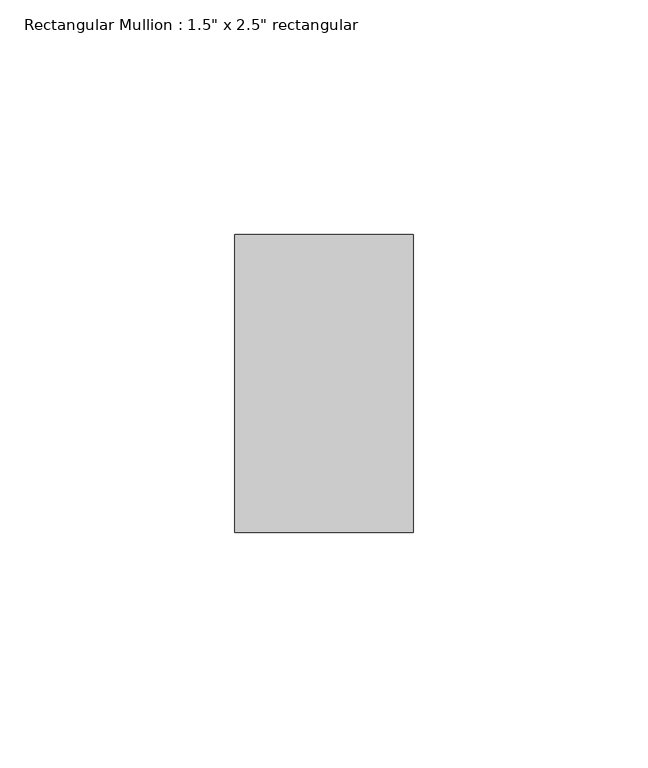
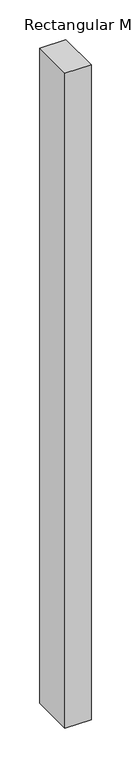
"""IFC4 building model written with IfcOpenShell, lengths in millimetres: member geometry."""

import ifcopenshell
import ifcopenshell.guid

model = None  # the IFC model being written
_history = None  # IfcOwnerHistory: only IFC2X3 demands one
_inside = {}  # id of a spatial element -> (the spatial element, [elements in it])
_under = {}  # id of a project, library or spatial element -> (it, [spatial elements below it])
_declared = {}  # id of a project -> (the project, [libraries it declares])
_typed = {}  # id of a type object -> (the type object, [elements of that type])
_made_of = {}  # id of a material, layer set ... -> (it, [elements and type objects made of it])


def new_model(schema):
    """Start an empty IFC model of exactly this schema.

    Asked for "IFC4X3", IfcOpenShell would pick the latest addendum, in which some entities
    have other attributes; the version numbers below select the first issue.
    IFC2X3 requires an IfcOwnerHistory on every rooted entity: one is made here for all.
    """
    global model, _history
    if schema == "IFC4X3":
        model = ifcopenshell.file(schema_version=(4, 3, 0, 0))
    else:
        model = ifcopenshell.file(schema=schema)
    _inside.clear()
    _under.clear()
    _declared.clear()
    _typed.clear()
    _made_of.clear()
    _history = None
    if model.schema == "IFC2X3":
        org = make("IfcOrganization", Name="unknown")
        user = make(
            "IfcPersonAndOrganization",
            ThePerson=make("IfcPerson", FamilyName="unknown"),
            TheOrganization=org,
        )
        app = make(
            "IfcApplication",
            ApplicationDeveloper=org,
            Version="unknown",
            ApplicationFullName="unknown",
            ApplicationIdentifier="unknown",
        )
        _history = make(
            "IfcOwnerHistory",
            OwningUser=user,
            OwningApplication=app,
            ChangeAction="ADDED",
            CreationDate=0,
        )
    return model


def make(cls, **values):
    """One entity of the class cls with the attributes given. An attribute that is None is left unset."""
    return model.create_entity(
        cls, **{name: value for name, value in values.items() if value is not None}
    )


def rooted(cls, **values):
    """An entity with a GlobalId (a new one), such as an element, a storey or a relation."""
    return make(cls, GlobalId=ifcopenshell.guid.new(), OwnerHistory=_history, **values)


def si_unit(unit_type, name, prefix=None):
    """IfcSIUnit, for example si_unit("LENGTHUNIT", "METRE", prefix="MILLI")."""
    return make("IfcSIUnit", UnitType=unit_type, Prefix=prefix, Name=name)


def assignment(units):
    """IfcUnitAssignment: the units of a project."""
    return None if units is None else make("IfcUnitAssignment", Units=units)


def point(xyz):
    """IfcCartesianPoint."""
    return None if xyz is None else make("IfcCartesianPoint", Coordinates=xyz)


def direction(xyz):
    """IfcDirection."""
    return None if xyz is None else make("IfcDirection", DirectionRatios=xyz)


def frame(location, z_axis=None, x_axis=None):
    """IfcAxis2Placement3D, a coordinate frame: its origin and axes. An axis left out is left unset."""
    return make(
        "IfcAxis2Placement3D",
        Location=point(location),
        Axis=direction(z_axis),
        RefDirection=direction(x_axis),
    )


def origin():
    """The frame at (0, 0, 0) with its axes left unset."""
    return frame((0.0, 0.0, 0.0))


def place(relative_to, where):
    """IfcLocalPlacement: puts the frame where relative to a parent placement (None: the world)."""
    return make(
        "IfcLocalPlacement", PlacementRelTo=relative_to, RelativePlacement=where
    )


def context(
    kind, dimensions, precision=None, world=None, true_north=None, identifier=None
):
    """IfcGeometricRepresentationContext, for example the 3D "Model" context."""
    return make(
        "IfcGeometricRepresentationContext",
        ContextIdentifier=identifier,
        ContextType=kind,
        CoordinateSpaceDimension=dimensions,
        Precision=precision,
        WorldCoordinateSystem=world,
        TrueNorth=true_north,
    )


def project(units=None, contexts=None):
    """IfcProject with its units and contexts."""
    return rooted(
        "IfcProject",
        Name="project",
        RepresentationContexts=contexts,
        UnitsInContext=assignment(units),
    )


def spatial(cls, under=None, at=None, **own):
    """A site, building, storey or space (cls), placed at a placement, below another one or the project."""
    s = rooted(cls, ObjectPlacement=at, **own)
    if under is not None:
        _under.setdefault(under.id(), (under, []))[1].append(s)
    return s


def polyline(points):
    """IfcPolyline through the points."""
    return make("IfcPolyline", Points=[point(p) for p in points])


def outline(outer, holes=None, kind="AREA"):
    """IfcArbitraryClosedProfileDef: a profile drawn as a closed curve; with holes, ...WithVoids."""
    if holes is None:
        return make("IfcArbitraryClosedProfileDef", ProfileType=kind, OuterCurve=outer)
    return make(
        "IfcArbitraryProfileDefWithVoids",
        ProfileType=kind,
        OuterCurve=outer,
        InnerCurves=holes,
    )


def extrude(swept, where, along, depth):
    """IfcExtrudedAreaSolid: the profile swept, set in the frame where, extruded along a direction by depth."""
    return make(
        "IfcExtrudedAreaSolid",
        SweptArea=swept,
        Position=where,
        ExtrudedDirection=direction(along),
        Depth=depth,
    )


def shape(context_of_items, identifier, shape_type, items):
    """IfcShapeRepresentation: the items that make up one representation, for example the "Body"."""
    return make(
        "IfcShapeRepresentation",
        ContextOfItems=context_of_items,
        RepresentationIdentifier=identifier,
        RepresentationType=shape_type,
        Items=items,
    )


def source(mapping_origin, context_of_items, identifier, shape_type, items):
    """IfcRepresentationMap: a shape defined once, which mapped items show again and again."""
    return make(
        "IfcRepresentationMap",
        MappingOrigin=mapping_origin,
        MappedRepresentation=shape(context_of_items, identifier, shape_type, items),
    )


def transform(
    local_origin,
    x_axis=None,
    y_axis=None,
    z_axis=None,
    scale=None,
    scale2=None,
    scale3=None,
    uniform=True,
):
    """IfcCartesianTransformationOperator3D, or its non-uniform kind. x_axis, y_axis, z_axis: its Axis1, 2, 3."""
    if uniform:
        return make(
            "IfcCartesianTransformationOperator3D",
            Axis1=direction(x_axis),
            Axis2=direction(y_axis),
            LocalOrigin=point(local_origin),
            Scale=scale,
            Axis3=direction(z_axis),
        )
    return make(
        "IfcCartesianTransformationOperator3DnonUniform",
        Axis1=direction(x_axis),
        Axis2=direction(y_axis),
        LocalOrigin=point(local_origin),
        Scale=scale,
        Axis3=direction(z_axis),
        Scale2=scale2,
        Scale3=scale3,
    )


def mapped(mapping_source, mapping_target):
    """IfcMappedItem: shows the shape of a source again, moved by a transform."""
    return make(
        "IfcMappedItem", MappingSource=mapping_source, MappingTarget=mapping_target
    )


def made_of(thing, what):
    """Note that an element or type object is made of a material, layer set ...; save() writes the relation."""
    if what is not None:
        _made_of.setdefault(what.id(), (what, []))[1].append(thing)
    return thing


def element(
    cls,
    number,
    at=None,
    inside=None,
    cuts=None,
    type_object=None,
    material=None,
    context=None,
    identifier="Body",
    shape_type=None,
    held_by="IfcProductDefinitionShape",
    body=None,
    shapes=None,
    **own,
):
    """One element of the class cls, such as IfcWall. Its Tag is "e" and its number.

    at: its placement. inside: the storey or other place that contains it. cuts: it is an
    opening in that element (IfcRelVoidsElement). A single representation is given by context,
    identifier, shape_type and body (its items); several are given by shapes. held_by: the class
    of the entity that holds the representations. save() writes the other relations.
    """
    e = rooted(cls, Tag="e%d" % number, ObjectPlacement=at, **own)
    if body is not None:
        shapes = [shape(context, identifier, shape_type, body)]
    if shapes is not None:
        e.Representation = make(held_by, Representations=shapes)
    if inside is not None:
        _inside.setdefault(inside.id(), (inside, []))[1].append(e)
    if cuts is not None:
        rooted(
            "IfcRelVoidsElement", RelatingBuildingElement=cuts, RelatedOpeningElement=e
        )
    if type_object is not None:
        _typed.setdefault(type_object.id(), (type_object, []))[1].append(e)
    return made_of(e, material)


def aggregate(whole, parts):
    """IfcRelAggregates: a whole, such as a stair, and the parts it consists of."""
    return rooted("IfcRelAggregates", RelatingObject=whole, RelatedObjects=parts)


def save(model, path):
    """Write the relations noted so far, then the file.

    IfcRelAggregates (storeys below a building ...), IfcRelContainedInSpatialStructure (elements
    in a storey), IfcRelDefinesByType, IfcRelAssociatesMaterial and IfcRelDeclares: one each for
    every whole, place, type object, material and project.
    """
    for whole, parts in _under.values():
        aggregate(whole, parts)
    for where, things in _inside.values():
        rooted(
            "IfcRelContainedInSpatialStructure",
            RelatedElements=things,
            RelatingStructure=where,
        )
    for kind, things in _typed.values():
        rooted("IfcRelDefinesByType", RelatedObjects=things, RelatingType=kind)
    for what, things in _made_of.values():
        rooted("IfcRelAssociatesMaterial", RelatedObjects=things, RelatingMaterial=what)
    for by, libraries in _declared.values():
        rooted("IfcRelDeclares", RelatingContext=by, RelatedDefinitions=libraries)
    model.write(path)


def member_26e31a6d(model_context):
    return source(origin(), model_context, "Body", "SweptSolid", [
        extrude(outline(polyline([(0.0, 31.75), (0.0, -31.75), (-38.1, -31.75), (-38.1, 31.75), (0.0, 31.75)])), frame((0.0, 0.0, -1006.9771189), z_axis=(0.0, 0.0, 1.0), x_axis=(1.0, 0.0, 0.0)), (0.0, 0.0, 1.0), 1006.9771189),
    ])


if __name__ == "__main__":
    model = new_model("IFC4")
    model_context = context("Model", 3, world=origin())
    ifc_project = project(units=[si_unit("LENGTHUNIT", "METRE", prefix="MILLI")], contexts=[model_context])
    site = spatial("IfcSite", under=ifc_project)
    building = spatial("IfcBuilding", under=site)
    placement = place(None, origin())
    member_shape = member_26e31a6d(model_context)
    element("IfcMember", 1, ObjectType="Rectangular Mullion : 1.5\" x 2.5\" rectangular", at=placement, inside=building, context=model_context, shape_type="MappedRepresentation", body=[
        mapped(member_shape, transform((0.0, 0.0, 0.0), x_axis=(1.0, 0.0, 0.0), y_axis=(0.0, 1.0, 0.0), z_axis=(0.0, 0.0, 1.0))),
    ])
    save(model, "model.ifc")
